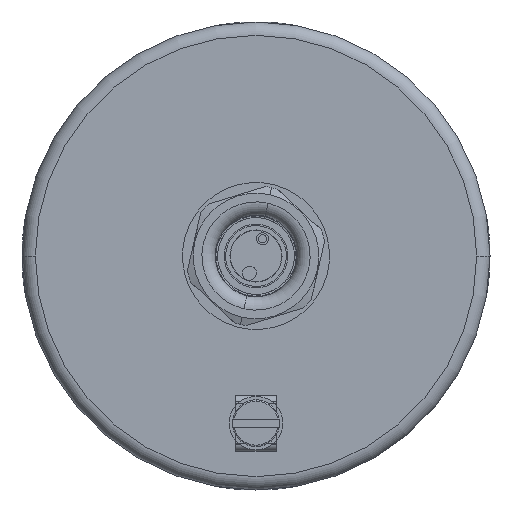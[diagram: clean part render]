
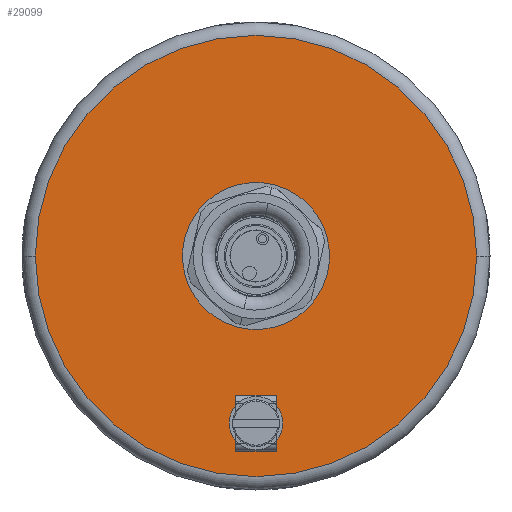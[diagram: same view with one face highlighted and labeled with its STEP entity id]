
A CAD part, left-side view. The second image highlights one B-rep face of the part: STEP entity #29099.
In plain terms, the highlighted planar face has unit normal (-1, 0, 0).
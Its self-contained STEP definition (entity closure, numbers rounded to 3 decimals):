
#936 = EDGE_LOOP ( 'NONE', ( #4728, #4748 ) ) ;
#4722 = ORIENTED_EDGE ( 'NONE', *, *, #27528, .F. ) ;
#4728 = ORIENTED_EDGE ( 'NONE', *, *, #27309, .T. ) ;
#4729 = ORIENTED_EDGE ( 'NONE', *, *, #27532, .F. ) ;
#4734 = ORIENTED_EDGE ( 'NONE', *, *, #28729, .F. ) ;
#4748 = ORIENTED_EDGE ( 'NONE', *, *, #27296, .T. ) ;
#4789 = ORIENTED_EDGE ( 'NONE', *, *, #28765, .F. ) ;
#11651 = AXIS2_PLACEMENT_3D ( 'NONE', #17066, #17067, #17068 ) ;
#11666 = AXIS2_PLACEMENT_3D ( 'NONE', #17105, #17106, #17107 ) ;
#11988 = AXIS2_PLACEMENT_3D ( 'NONE', #17940, #17941, #17942 ) ;
#11992 = AXIS2_PLACEMENT_3D ( 'NONE', #17965, #17966, #17967 ) ;
#13574 = CIRCLE ( 'NONE', #11651, 33. ) ;
#13587 = CIRCLE ( 'NONE', #11666, 33. ) ;
#13704 = CIRCLE ( 'NONE', #11988, 7.25 ) ;
#13706 = CIRCLE ( 'NONE', #11992, 2.7 ) ;
#13926 = CIRCLE ( 'NONE', #19869, 2.7 ) ;
#13938 = CIRCLE ( 'NONE', #19799, 7.25 ) ;
#17066 = CARTESIAN_POINT ( 'NONE',  ( -70.2, 0., 0. ) ) ;
#17067 = DIRECTION ( 'NONE',  ( -1., 0., 0. ) ) ;
#17068 = DIRECTION ( 'NONE',  ( 0., -1., 0. ) ) ;
#17105 = CARTESIAN_POINT ( 'NONE',  ( -70.2, 0., 0. ) ) ;
#17106 = DIRECTION ( 'NONE',  ( -1., 0., 0. ) ) ;
#17107 = DIRECTION ( 'NONE',  ( 0., -1., 0. ) ) ;
#17940 = CARTESIAN_POINT ( 'NONE',  ( -70.2, 0., 0. ) ) ;
#17941 = DIRECTION ( 'NONE',  ( -1., 0., 0. ) ) ;
#17942 = DIRECTION ( 'NONE',  ( 0., -1., 0. ) ) ;
#17965 = CARTESIAN_POINT ( 'NONE',  ( -70.2, 0., -25. ) ) ;
#17966 = DIRECTION ( 'NONE',  ( -1., 0., 0. ) ) ;
#17967 = DIRECTION ( 'NONE',  ( 0., -1., 0. ) ) ;
#19799 = AXIS2_PLACEMENT_3D ( 'NONE', #22319, #22320, #22321 ) ;
#19869 = AXIS2_PLACEMENT_3D ( 'NONE', #22211, #22212, #22213 ) ;
#20382 = FACE_BOUND ( 'NONE', #31890, .T. ) ;
#20384 = FACE_BOUND ( 'NONE', #31799, .T. ) ;
#20387 = FACE_OUTER_BOUND ( 'NONE', #936, .T. ) ;
#20389 = AXIS2_PLACEMENT_3D ( 'NONE', #24029, #24030, #24031 ) ;
#22211 = CARTESIAN_POINT ( 'NONE',  ( -70.2, 0., -25. ) ) ;
#22212 = DIRECTION ( 'NONE',  ( -1., 0., 0. ) ) ;
#22213 = DIRECTION ( 'NONE',  ( 0., -1., 0. ) ) ;
#22319 = CARTESIAN_POINT ( 'NONE',  ( -70.2, 0., 0. ) ) ;
#22320 = DIRECTION ( 'NONE',  ( -1., 0., 0. ) ) ;
#22321 = DIRECTION ( 'NONE',  ( 0., -1., 0. ) ) ;
#24028 = PLANE ( 'NONE',  #20389 ) ;
#24029 = CARTESIAN_POINT ( 'NONE',  ( -70.2, 0., 0. ) ) ;
#24030 = DIRECTION ( 'NONE',  ( 1., 0., 0. ) ) ;
#24031 = DIRECTION ( 'NONE',  ( 0., 1., 0. ) ) ;
#26565 = CARTESIAN_POINT ( 'NONE',  ( -70.2, -33., 0. ) ) ;
#26566 = CARTESIAN_POINT ( 'NONE',  ( -70.2, 33., 0. ) ) ;
#26587 = CARTESIAN_POINT ( 'NONE',  ( -70.2, 7.25, 0. ) ) ;
#26594 = CARTESIAN_POINT ( 'NONE',  ( -70.2, 2.7, -25. ) ) ;
#26602 = CARTESIAN_POINT ( 'NONE',  ( -70.2, -2.7, -25. ) ) ;
#26647 = CARTESIAN_POINT ( 'NONE',  ( -70.2, -7.25, 0. ) ) ;
#27296 = EDGE_CURVE ( 'NONE', #30486, #30485, #13574, .T. ) ;
#27309 = EDGE_CURVE ( 'NONE', #30485, #30486, #13587, .T. ) ;
#27528 = EDGE_CURVE ( 'NONE', #30567, #30507, #13704, .T. ) ;
#27532 = EDGE_CURVE ( 'NONE', #30522, #30514, #13706, .T. ) ;
#28729 = EDGE_CURVE ( 'NONE', #30514, #30522, #13926, .T. ) ;
#28765 = EDGE_CURVE ( 'NONE', #30507, #30567, #13938, .T. ) ;
#29099 = ADVANCED_FACE ( 'NONE', ( #20384, #20382, #20387 ), #24028, .F. ) ;
#30485 = VERTEX_POINT ( 'NONE', #26565 ) ;
#30486 = VERTEX_POINT ( 'NONE', #26566 ) ;
#30507 = VERTEX_POINT ( 'NONE', #26587 ) ;
#30514 = VERTEX_POINT ( 'NONE', #26594 ) ;
#30522 = VERTEX_POINT ( 'NONE', #26602 ) ;
#30567 = VERTEX_POINT ( 'NONE', #26647 ) ;
#31799 = EDGE_LOOP ( 'NONE', ( #4729, #4734 ) ) ;
#31890 = EDGE_LOOP ( 'NONE', ( #4722, #4789 ) ) ;
